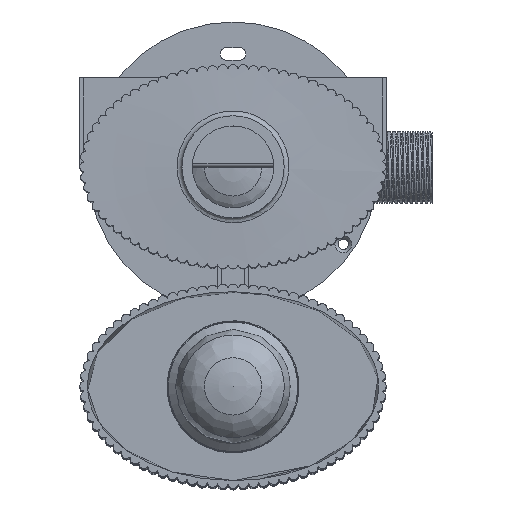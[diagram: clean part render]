
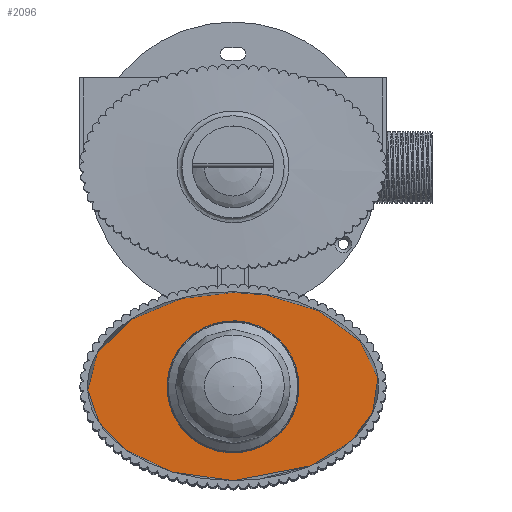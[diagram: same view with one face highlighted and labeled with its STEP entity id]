
A CAD part, top view. The second image highlights one B-rep face of the part: STEP entity #2096.
In plain terms, the highlighted planar face has unit normal (0, 0, 1) as drawn and (0, 0, -1) by its records, which use the part's own axes.
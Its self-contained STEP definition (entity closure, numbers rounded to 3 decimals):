
#2096 = ADVANCED_FACE( '', ( #4039, #4040 ), #4041, .F. );
#4039 = FACE_OUTER_BOUND( '', #7104, .T. );
#4040 = FACE_BOUND( '', #7105, .T. );
#4041 = PLANE( '', #7106 );
#7104 = EDGE_LOOP( '', ( #11282, #11283 ) );
#7105 = EDGE_LOOP( '', ( #11284 ) );
#7106 = AXIS2_PLACEMENT_3D( '', #11285, #11286, #11287 );
#11282 = ORIENTED_EDGE( '', *, *, #15643, .F. );
#11283 = ORIENTED_EDGE( '', *, *, #15644, .F. );
#11284 = ORIENTED_EDGE( '', *, *, #15645, .F. );
#11285 = CARTESIAN_POINT( '', ( -2., 38.477, 146. ) );
#11286 = DIRECTION( '', ( 0., 0., 1. ) );
#11287 = DIRECTION( '', ( 1., 0., 0. ) );
#15643 = EDGE_CURVE( '', #18198, #18199, #18200, .T. );
#15644 = EDGE_CURVE( '', #18199, #18198, #18201, .T. );
#15645 = EDGE_CURVE( '', #18202, #18202, #18203, .F. );
#18198 = VERTEX_POINT( '', #22914 );
#18199 = VERTEX_POINT( '', #22915 );
#18200 = B_SPLINE_CURVE_WITH_KNOTS( '', 3, ( #22916, #22917, #22918, #22919, #22920, #22921, #22922, #22923, #22924, #22925, #22926, #22927, #22928, #22929, #22930, #22931, #22932, #22933, #22934, #22935, #22936, #22937, #22938, #22939, #22940, #22941, #22942, #22943 ), .UNSPECIFIED., .F., .F., ( 4, 2, 2, 2, 2, 2, 2, 2, 2, 2, 2, 2, 2, 4 ), ( 0., 0., 0.083, 0.167, 0.25, 0.333, 0.417, 0.5, 0.583, 0.667, 0.75, 0.833, 0.917, 1. ), .UNSPECIFIED. );
#18201 = B_SPLINE_CURVE_WITH_KNOTS( '', 3, ( #22944, #22945, #22946, #22947, #22948, #22949, #22950, #22951, #22952, #22953, #22954, #22955, #22956, #22957, #22958, #22959, #22960, #22961, #22962, #22963, #22964, #22965, #22966, #22967, #22968, #22969 ), .UNSPECIFIED., .F., .F., ( 4, 2, 2, 2, 2, 2, 2, 2, 2, 2, 2, 2, 4 ), ( 0., 0.083, 0.167, 0.25, 0.333, 0.417, 0.5, 0.583, 0.667, 0.75, 0.833, 0.917, 1. ), .UNSPECIFIED. );
#18202 = VERTEX_POINT( '', #22970 );
#18203 = CIRCLE( '', #22971, 16. );
#22914 = CARTESIAN_POINT( '', ( 0., -37.003, 146. ) );
#22915 = CARTESIAN_POINT( '', ( 0., 37., 146. ) );
#22916 = CARTESIAN_POINT( '', ( 0., -37.003, 146. ) );
#22917 = CARTESIAN_POINT( '', ( 0., -37.003, 146. ) );
#22918 = CARTESIAN_POINT( '', ( 0., -37.003, 146. ) );
#22919 = CARTESIAN_POINT( '', ( 5.58, -37.003, 146. ) );
#22920 = CARTESIAN_POINT( '', ( 11.16, -36.454, 146. ) );
#22921 = CARTESIAN_POINT( '', ( 21.622, -34.398, 146. ) );
#22922 = CARTESIAN_POINT( '', ( 26.504, -32.892, 146. ) );
#22923 = CARTESIAN_POINT( '', ( 35.134, -29.269, 146. ) );
#22924 = CARTESIAN_POINT( '', ( 38.882, -27.152, 146. ) );
#22925 = CARTESIAN_POINT( '', ( 45.161, -22.692, 146. ) );
#22926 = CARTESIAN_POINT( '', ( 47.692, -20.347, 146. ) );
#22927 = CARTESIAN_POINT( '', ( 51.696, -15.725, 146. ) );
#22928 = CARTESIAN_POINT( '', ( 53.429, -13.142, 146. ) );
#22929 = CARTESIAN_POINT( '', ( 55.971, -7.539, 146. ) );
#22930 = CARTESIAN_POINT( '', ( 56.78, -4.517, 146. ) );
#22931 = CARTESIAN_POINT( '', ( 57.144, 1.785, 146. ) );
#22932 = CARTESIAN_POINT( '', ( 56.697, 5.072, 146. ) );
#22933 = CARTESIAN_POINT( '', ( 54.315, 11.657, 146. ) );
#22934 = CARTESIAN_POINT( '', ( 52.369, 14.951, 146. ) );
#22935 = CARTESIAN_POINT( '', ( 47.026, 21.121, 146. ) );
#22936 = CARTESIAN_POINT( '', ( 43.635, 23.987, 146. ) );
#22937 = CARTESIAN_POINT( '', ( 35.869, 28.911, 146. ) );
#22938 = CARTESIAN_POINT( '', ( 31.508, 30.967, 146. ) );
#22939 = CARTESIAN_POINT( '', ( 22.46, 34.147, 146. ) );
#22940 = CARTESIAN_POINT( '', ( 17.778, 35.271, 146. ) );
#22941 = CARTESIAN_POINT( '', ( 8.64, 36.697, 146. ) );
#22942 = CARTESIAN_POINT( '', ( 4.183, 37., 146. ) );
#22943 = CARTESIAN_POINT( '', ( 0., 37., 146. ) );
#22944 = CARTESIAN_POINT( '', ( 0., 37., 146. ) );
#22945 = CARTESIAN_POINT( '', ( -4.183, 37., 146. ) );
#22946 = CARTESIAN_POINT( '', ( -8.64, 36.697, 146. ) );
#22947 = CARTESIAN_POINT( '', ( -17.778, 35.271, 146. ) );
#22948 = CARTESIAN_POINT( '', ( -22.46, 34.147, 146. ) );
#22949 = CARTESIAN_POINT( '', ( -31.508, 30.967, 146. ) );
#22950 = CARTESIAN_POINT( '', ( -35.869, 28.911, 146. ) );
#22951 = CARTESIAN_POINT( '', ( -43.635, 23.987, 146. ) );
#22952 = CARTESIAN_POINT( '', ( -47.026, 21.121, 146. ) );
#22953 = CARTESIAN_POINT( '', ( -52.369, 14.951, 146. ) );
#22954 = CARTESIAN_POINT( '', ( -54.315, 11.657, 146. ) );
#22955 = CARTESIAN_POINT( '', ( -56.697, 5.072, 146. ) );
#22956 = CARTESIAN_POINT( '', ( -57.144, 1.785, 146. ) );
#22957 = CARTESIAN_POINT( '', ( -56.78, -4.517, 146. ) );
#22958 = CARTESIAN_POINT( '', ( -55.971, -7.539, 146. ) );
#22959 = CARTESIAN_POINT( '', ( -53.429, -13.142, 146. ) );
#22960 = CARTESIAN_POINT( '', ( -51.696, -15.725, 146. ) );
#22961 = CARTESIAN_POINT( '', ( -47.692, -20.347, 146. ) );
#22962 = CARTESIAN_POINT( '', ( -45.161, -22.692, 146. ) );
#22963 = CARTESIAN_POINT( '', ( -38.882, -27.152, 146. ) );
#22964 = CARTESIAN_POINT( '', ( -35.134, -29.269, 146. ) );
#22965 = CARTESIAN_POINT( '', ( -26.504, -32.892, 146. ) );
#22966 = CARTESIAN_POINT( '', ( -21.622, -34.398, 146. ) );
#22967 = CARTESIAN_POINT( '', ( -11.16, -36.454, 146. ) );
#22968 = CARTESIAN_POINT( '', ( -5.58, -37.003, 146. ) );
#22969 = CARTESIAN_POINT( '', ( 0., -37.003, 146. ) );
#22970 = CARTESIAN_POINT( '', ( 16., 0., 146. ) );
#22971 = AXIS2_PLACEMENT_3D( '', #28087, #28088, #28089 );
#28087 = CARTESIAN_POINT( '', ( 0., 0., 146. ) );
#28088 = DIRECTION( '', ( 0., 0., 1. ) );
#28089 = DIRECTION( '', ( 1., 0., 0. ) );
